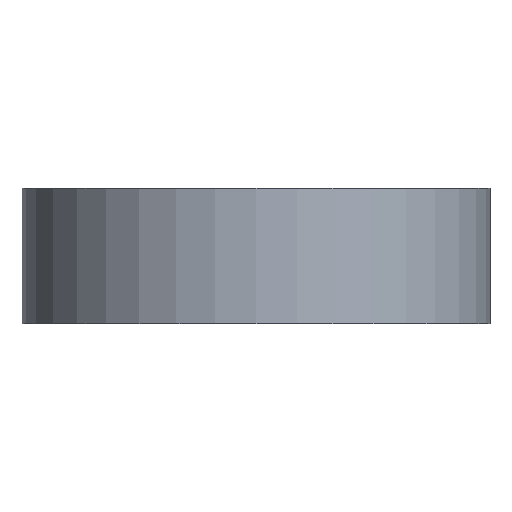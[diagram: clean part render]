
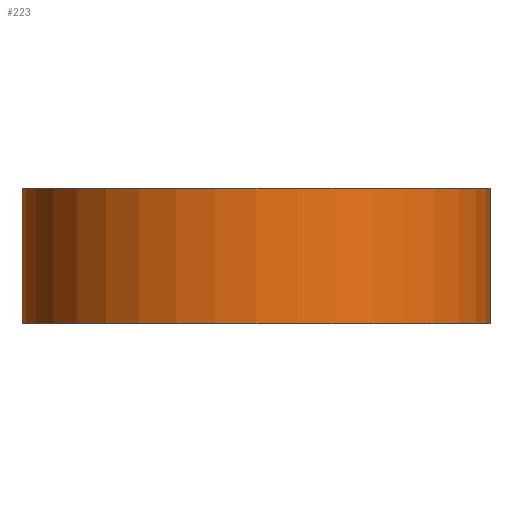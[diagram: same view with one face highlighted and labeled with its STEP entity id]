
A CAD part, front view. The second image highlights one B-rep face of the part: STEP entity #223.
In plain terms, the highlighted cylindrical face has radius 26 mm (diameter 52 mm), a full revolution.
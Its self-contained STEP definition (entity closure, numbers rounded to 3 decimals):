
#223 = ADVANCED_FACE('',(#224),#237,.T.);
#224 = FACE_BOUND('',#225,.T.);
#225 = EDGE_LOOP('',(#226,#260,#283,#310));
#226 = ORIENTED_EDGE('',*,*,#227,.F.);
#227 = EDGE_CURVE('',#228,#228,#230,.T.);
#228 = VERTEX_POINT('',#229);
#229 = CARTESIAN_POINT('',(26.,0.,7.5));
#230 = SURFACE_CURVE('',#231,(#236,#248),.PCURVE_S1.);
#231 = CIRCLE('',#232,26.);
#232 = AXIS2_PLACEMENT_3D('',#233,#234,#235);
#233 = CARTESIAN_POINT('',(0.,0.,7.5));
#234 = DIRECTION('',(0.,0.,1.));
#235 = DIRECTION('',(1.,0.,-0.));
#236 = PCURVE('',#237,#242);
#237 = CYLINDRICAL_SURFACE('',#238,26.);
#238 = AXIS2_PLACEMENT_3D('',#239,#240,#241);
#239 = CARTESIAN_POINT('',(0.,0.,-7.5));
#240 = DIRECTION('',(0.,0.,1.));
#241 = DIRECTION('',(1.,0.,-0.));
#242 = DEFINITIONAL_REPRESENTATION('',(#243),#247);
#243 = LINE('',#244,#245);
#244 = CARTESIAN_POINT('',(0.,15.));
#245 = VECTOR('',#246,1.);
#246 = DIRECTION('',(1.,0.));
#247 = ( GEOMETRIC_REPRESENTATION_CONTEXT(2) 
PARAMETRIC_REPRESENTATION_CONTEXT() REPRESENTATION_CONTEXT('2D SPACE',''
  ) );
#248 = PCURVE('',#249,#254);
#249 = PLANE('',#250);
#250 = AXIS2_PLACEMENT_3D('',#251,#252,#253);
#251 = CARTESIAN_POINT('',(0.,0.,7.5));
#252 = DIRECTION('',(0.,0.,1.));
#253 = DIRECTION('',(1.,0.,-0.));
#254 = DEFINITIONAL_REPRESENTATION('',(#255),#259);
#255 = CIRCLE('',#256,26.);
#256 = AXIS2_PLACEMENT_2D('',#257,#258);
#257 = CARTESIAN_POINT('',(0.,0.));
#258 = DIRECTION('',(1.,0.));
#259 = ( GEOMETRIC_REPRESENTATION_CONTEXT(2) 
PARAMETRIC_REPRESENTATION_CONTEXT() REPRESENTATION_CONTEXT('2D SPACE',''
  ) );
#260 = ORIENTED_EDGE('',*,*,#261,.F.);
#261 = EDGE_CURVE('',#262,#228,#264,.T.);
#262 = VERTEX_POINT('',#263);
#263 = CARTESIAN_POINT('',(26.,0.,-7.5));
#264 = SEAM_CURVE('',#265,(#269,#276),.PCURVE_S1.);
#265 = LINE('',#266,#267);
#266 = CARTESIAN_POINT('',(26.,0.,-7.5));
#267 = VECTOR('',#268,1.);
#268 = DIRECTION('',(0.,0.,1.));
#269 = PCURVE('',#237,#270);
#270 = DEFINITIONAL_REPRESENTATION('',(#271),#275);
#271 = LINE('',#272,#273);
#272 = CARTESIAN_POINT('',(6.283,-0.));
#273 = VECTOR('',#274,1.);
#274 = DIRECTION('',(0.,1.));
#275 = ( GEOMETRIC_REPRESENTATION_CONTEXT(2) 
PARAMETRIC_REPRESENTATION_CONTEXT() REPRESENTATION_CONTEXT('2D SPACE',''
  ) );
#276 = PCURVE('',#237,#277);
#277 = DEFINITIONAL_REPRESENTATION('',(#278),#282);
#278 = LINE('',#279,#280);
#279 = CARTESIAN_POINT('',(0.,-0.));
#280 = VECTOR('',#281,1.);
#281 = DIRECTION('',(0.,1.));
#282 = ( GEOMETRIC_REPRESENTATION_CONTEXT(2) 
PARAMETRIC_REPRESENTATION_CONTEXT() REPRESENTATION_CONTEXT('2D SPACE',''
  ) );
#283 = ORIENTED_EDGE('',*,*,#284,.T.);
#284 = EDGE_CURVE('',#262,#262,#285,.T.);
#285 = SURFACE_CURVE('',#286,(#291,#298),.PCURVE_S1.);
#286 = CIRCLE('',#287,26.);
#287 = AXIS2_PLACEMENT_3D('',#288,#289,#290);
#288 = CARTESIAN_POINT('',(0.,0.,-7.5));
#289 = DIRECTION('',(0.,0.,1.));
#290 = DIRECTION('',(1.,0.,-0.));
#291 = PCURVE('',#237,#292);
#292 = DEFINITIONAL_REPRESENTATION('',(#293),#297);
#293 = LINE('',#294,#295);
#294 = CARTESIAN_POINT('',(0.,0.));
#295 = VECTOR('',#296,1.);
#296 = DIRECTION('',(1.,0.));
#297 = ( GEOMETRIC_REPRESENTATION_CONTEXT(2) 
PARAMETRIC_REPRESENTATION_CONTEXT() REPRESENTATION_CONTEXT('2D SPACE',''
  ) );
#298 = PCURVE('',#299,#304);
#299 = PLANE('',#300);
#300 = AXIS2_PLACEMENT_3D('',#301,#302,#303);
#301 = CARTESIAN_POINT('',(0.,0.,-7.5));
#302 = DIRECTION('',(0.,0.,1.));
#303 = DIRECTION('',(1.,0.,-0.));
#304 = DEFINITIONAL_REPRESENTATION('',(#305),#309);
#305 = CIRCLE('',#306,26.);
#306 = AXIS2_PLACEMENT_2D('',#307,#308);
#307 = CARTESIAN_POINT('',(0.,0.));
#308 = DIRECTION('',(1.,0.));
#309 = ( GEOMETRIC_REPRESENTATION_CONTEXT(2) 
PARAMETRIC_REPRESENTATION_CONTEXT() REPRESENTATION_CONTEXT('2D SPACE',''
  ) );
#310 = ORIENTED_EDGE('',*,*,#261,.T.);
